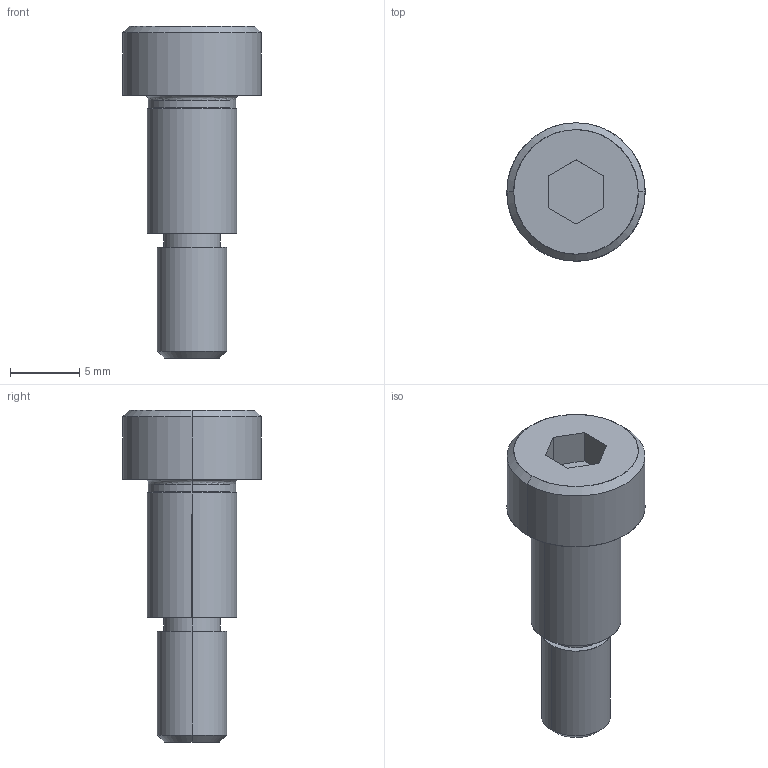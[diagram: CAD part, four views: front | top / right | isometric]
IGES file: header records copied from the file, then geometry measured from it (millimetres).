
Global section: file name: E:\UnigraphicsGraphicData\MISUMI_PRESS-PARTS\IGES\3d_msb6.5-10_00569_r00.igs; native system: NX V5.0; preprocessor: UGS NX IGES V5.0; author: MISUMI; date: 20110105.161514; units: millimetre
Bounding box: 10 x 10 x 24 mm (x, y, z)
Surface area: 689.8 mm2 (no closed solid volume)
Topology: 0 solids, 0 shells, 30 faces, 172 edges, 172 vertices
Faces by surface type: bspline 30
